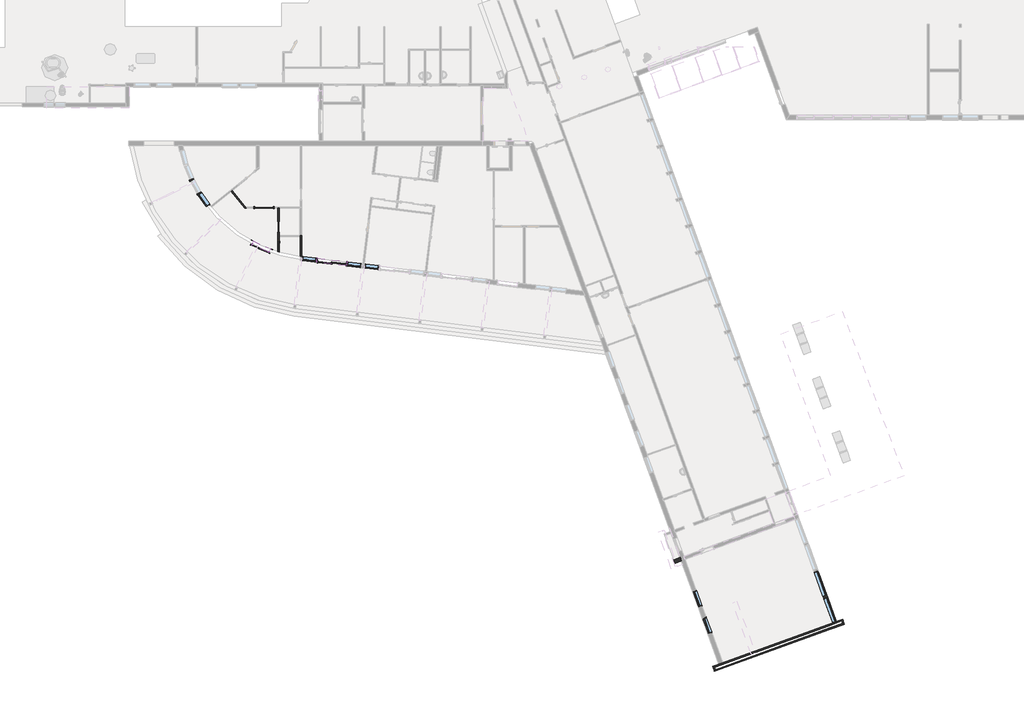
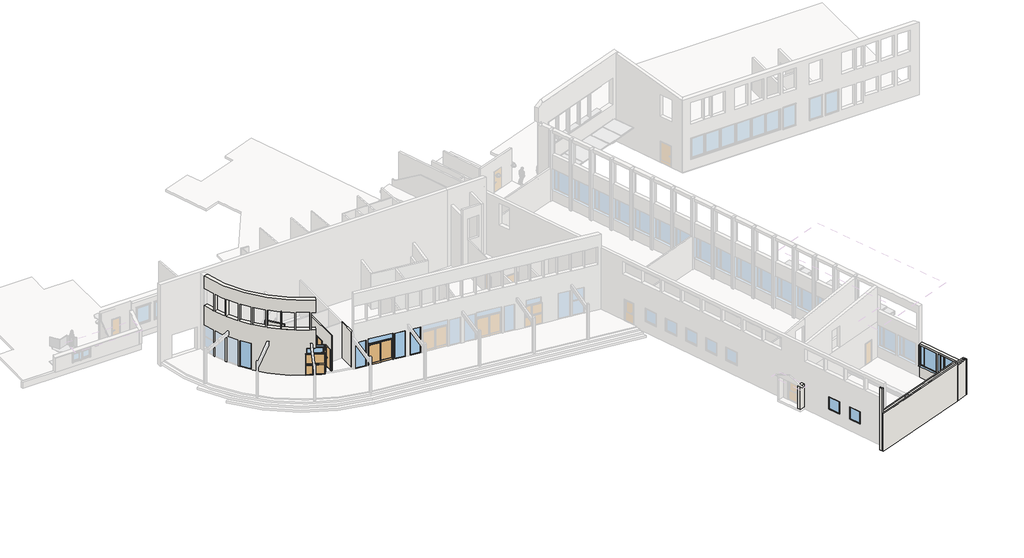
# One storey, part 1 of 13: 13 walls, 10 windows, 5 doors.
"""IFC4 building model written with IfcOpenShell, lengths in millimetres."""

from ifc_helpers import new_model, si_unit, frame, origin, place, context, project, spatial, polyline, circle_curve, outline, extrude, faceted_brep, transform, mapped, element, save
from ifc_brep_helpers import plane_surface, cylinder_surface, revolved_surface, advanced_brep
from components import door_adb3bcbd, door_8x21_7557395c, door_9x21_cc0549d7, id_14x21m_9ddf2398, id_16x22m_5dfcd5f5, window_7219a36e, window_894d641d, window_12c30cfa, window_c16d9a60, window_12x13_gh_d70a3594, window_193x212_1140f226

model = new_model("IFC4")

# Units and contexts
model_context = context("Model", 3, world=origin())
ifc_project = project(units=[si_unit("LENGTHUNIT", "METRE", prefix="MILLI")], contexts=[model_context])

# Site, building, storey
site = spatial("IfcSite", under=ifc_project)
building = spatial("IfcBuilding", under=site)
storey = spatial("IfcBuildingStorey", under=building, Name="1.0 første etg hovedbygg", Elevation=2500.0)

# Doors
placement = place(None, origin())
door_shape = door_adb3bcbd(model_context)
element("IfcDoor", 1, ObjectType="Balkongdor ST : 23x21 ST V1", at=placement, inside=storey, context=model_context, shape_type="MappedRepresentation", body=[
    mapped(door_shape, transform((11680.5593168, -9378.571437, 2500.0), x_axis=(-0.9925461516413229, 0.12186934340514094, 0.0), y_axis=(-0.12186934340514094, -0.9925461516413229, 0.0), z_axis=(0.0, 0.0, 1.0))),
])
door_8x21_shape = door_8x21_7557395c(model_context)
element("IfcDoor", 2, ObjectType="Innerdør Slett (Diplomat) : 8x21", at=placement, inside=storey, context=model_context, shape_type="MappedRepresentation", body=[
    mapped(door_8x21_shape, transform((7633.9847548, -8108.4507924, 2500.0), x_axis=(0.0, 1.0, 0.0), y_axis=(-1.0, 0.0, 0.0), z_axis=(0.0, 0.0, 1.0))),
])
door_9x21_shape = door_9x21_cc0549d7(model_context)
element("IfcDoor", 3, ObjectType="Innerdor Skyvedor Glatt : 9x21", at=placement, inside=storey, context=model_context, shape_type="MappedRepresentation", body=[
    mapped(door_9x21_shape, transform((7633.9847548, -6668.4672025, 2500.0), x_axis=(0.0, -1.0, 0.0), y_axis=(1.0, 0.0, 0.0), z_axis=(0.0, 0.0, 1.0))),
])
id_14x21m_shape = id_14x21m_9ddf2398(model_context)
element("IfcDoor", 4, ObjectType="Innerdør slett tofløya lite sidefelt : ID 14x21M", at=placement, inside=storey, context=model_context, shape_type="MappedRepresentation", body=[
    mapped(id_14x21m_shape, transform((5905.9847548, -5197.7698419, 2500.0), x_axis=(-1.0, 0.0, 0.0), y_axis=(0.0, -1.0, 0.0), z_axis=(0.0, 0.0, 1.0))),
])
id_16x22m_shape = id_16x22m_5dfcd5f5(model_context)
element("IfcDoor", 5, ObjectType="Y-dør tofløya med glas : ID 16x22M", at=placement, inside=storey, context=model_context, shape_type="MappedRepresentation", body=[
    mapped(id_16x22m_shape, transform((5646.8717631, -7927.8232295, 2500.0), x_axis=(-0.9130493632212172, 0.4078490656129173, 0.0), y_axis=(-0.4078490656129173, -0.9130493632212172, 0.0), z_axis=(0.0, 0.0, 1.0))),
])

# Walls
element("IfcWall", 6, ObjectType="Yttervegg tegl halvstein", at=placement, inside=storey, context=model_context, shape_type="Brep", body=[
    faceted_brep([(50552.8894826, -36654.5860471, 2300.0), (50589.827658, -36756.0728501, 2300.0), (50651.0492637, -36924.2778292, 2300.0), (50687.9874392, -37025.7646323, 2300.0), (50687.9874392, -37025.7646323, 5820.0), (50651.0492637, -36924.2778292, 5820.0), (50589.827658, -36756.0728501, 5820.0), (50552.8894826, -36654.5860471, 5820.0), (50654.3762856, -36617.6478716, 2300.0), (50654.3762856, -36617.6478716, 5820.0), (50789.4742422, -36988.8264568, 5820.0), (50789.4742422, -36988.8264568, 2300.0)], [[[0, 1, 2, 3, 4, 5, 6, 7]], [[8, 9, 10, 11]], [[3, 2, 1, 0, 8, 11]], [[4, 3, 11, 10]], [[0, 7, 9, 8]], [[7, 6, 5, 4, 10, 9]]]),
])
element("IfcWall", 7, ObjectType="Yttervegg tegl halvstein", at=placement, inside=storey, context=model_context, shape_type="SweptSolid", body=[
    extrude(outline(polyline([(-108.0, 0.0), (-108.0, -3520.0), (-1150.0, -3520.0), (-1154.0, -3520.0), (-1154.0, 0.0), (-108.0, 0.0)])), frame((50789.4742422, -36988.8264568, 2300.0), z_axis=(-0.3420201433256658, 0.9396926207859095, 0.0), x_axis=(0.9396926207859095, 0.3420201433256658, 0.0)), (0.0, 0.0, 1.0), 108.0),
])
element("IfcWall", 8, ObjectType="Yttervegg tegl halvstein", at=placement, inside=storey, context=model_context, shape_type="Brep", body=[
    faceted_brep([(40940.2657205, -40458.7139904, 8486.2168268), (40940.2657205, -40458.7139904, 2300.0), (40879.0441148, -40290.5090112, 2300.0), (40842.1059394, -40189.0222082, 2300.0), (40842.1059394, -40189.0222082, 6020.0), (40842.1059394, -40189.0222082, 8486.2168268), (40879.0441148, -40290.5090112, 8486.2168268), (40838.7789174, -40495.6521658, 2300.0), (40838.7789174, -40495.6521658, 6020.0), (40838.7789174, -40495.6521658, 8474.8655694), (40740.6191363, -40225.9603837, 8474.8655694), (40740.6191363, -40225.9603837, 2300.0)], [[[0, 1, 2, 3, 4, 5, 6]], [[7, 8, 9, 10, 11]], [[3, 2, 1, 7, 11]], [[0, 6, 5, 10, 9]], [[0, 9, 8, 7, 1]], [[3, 11, 10, 5, 4]]]),
])
element("IfcWall", 9, ObjectType="Yttervegg tegl halvstein", at=placement, inside=storey, context=model_context, shape_type="Brep", body=[
    faceted_brep([(40879.0441148, -40290.5090112, 2300.0), (49625.7030291, -37106.9855172, 2300.0), (49625.7030291, -37106.9855172, 5820.0), (49625.7030291, -37106.9855172, 6020.0), (49509.1811441, -37149.3960149, 6020.0), (40879.0441148, -40290.5090112, 6020.0), (40842.1059394, -40189.0222082, 2300.0), (40842.1059394, -40189.0222082, 6020.0), (49472.2429686, -37047.9092119, 6020.0), (49588.7648536, -37005.4987141, 6020.0), (49588.7648536, -37005.4987141, 5820.0), (49588.7648536, -37005.4987141, 2300.0), (41501.7701591, -39948.9240676, 2300.0), (41210.4654467, -40054.950312, 2300.0)], [[[0, 1, 2, 3, 4, 5]], [[6, 7, 8, 9, 10, 11, 12, 13]], [[1, 0, 6, 13, 12, 11]], [[3, 2, 1, 11, 10, 9]], [[5, 4, 3, 9, 8, 7]], [[0, 5, 7, 6]]]),
])
element("IfcWall", 10, ObjectType="Yttervegg Tre 198+48 Isolert Stående kledning 2", at=placement, inside=storey, context=model_context, shape_type="AdvancedBrep", body=[
    advanced_brep(
    [(74.446719, -928.8908326, 9960.0), (6215.7793262, -8404.2795209, 9960.0), (6355.7666082, -8090.0510039, 9960.0), (410.461041, -855.1499797, 9960.0), (365.9488095, -1967.2560142, 2500.0), (697.7326696, -1874.635608, 2500.0), (721.0205947, -1942.9074526, 2500.0), (401.7968291, -2072.3495514, 2500.0), (1172.0064508, -3043.1351355, 2500.0), (869.5257844, -3207.9517484, 2500.0), (818.9043837, -3100.9997776, 2500.0), (1138.1281493, -2971.5576788, 2500.0), (1400.622352, -4182.649874, 2500.0), (1703.1030184, -4017.833261, 2500.0), (1726.9996162, -4056.4507281, 2500.0), (1444.528806, -4253.6037418, 2500.0), (2079.8245264, -5163.8231371, 2500.0), (2362.2953366, -4966.6701235, 2500.0), (2464.4809882, -5095.5796597, 2500.0), (2527.5793542, -5173.1462326, 2500.0), (5623.8907674, -7729.1781343, 2500.0), (5483.1871367, -8044.1705451, 2500.0), (74.446719, -928.8908326, 8720.0), (365.5729433, -1966.1351007, 8720.0), (365.5729433, -1966.1351007, 7010.0), (74.446719, -928.8908326, 7010.0), (74.446719, -928.8908326, 5100.0), (365.9488095, -1967.2560142, 5100.0), (401.7968291, -2072.3495514, 5100.0), (818.9043837, -3100.9997776, 5100.0), (869.5257844, -3207.9517484, 5100.0), (1400.622352, -4182.649874, 5100.0), (1444.528806, -4253.6037418, 5100.0), (2079.8245264, -5163.8231371, 5100.0), (5483.1871367, -8044.1705451, 4600.0), (5571.7528065, -8091.4095775, 4600.0), (5571.7528065, -8091.4095775, 5170.0), (6215.7793262, -8404.2795209, 5170.0), (6215.7793262, -8404.2795209, 7010.0), (5877.9772771, -8246.7557059, 7010.0), (5877.9772771, -8246.7557059, 8720.0), (6215.7793262, -8404.2795209, 8720.0), (814.1848387, -3090.8719646, 7010.0), (398.1407631, -2061.791148, 7010.0), (398.1407631, -2061.791148, 8720.0), (814.1848387, -3090.8719646, 8720.0), (1386.1263693, -4158.9524404, 7010.0), (857.5363741, -3182.8927, 7010.0), (857.5363741, -3182.8927, 8720.0), (1386.1263693, -4158.9524404, 8720.0), (2072.9523268, -5154.9720857, 7010.0), (1438.6005037, -4244.0946161, 7010.0), (1438.6005037, -4244.0946161, 8720.0), (2072.9523268, -5154.9720857, 8720.0), (2867.2609898, -6068.4967862, 7010.0), (2135.0404613, -5234.2587521, 7010.0), (2135.0404613, -5234.2587521, 8720.0), (2867.2609898, -6068.4967862, 8720.0), (3758.6784144, -6887.4370512, 7010.0), (2937.7767604, -6140.2955154, 7010.0), (2937.7767604, -6140.2955154, 8720.0), (3758.6784144, -6887.4370512, 8720.0), (4736.0159386, -7601.5436802, 7010.0), (3836.7307717, -6950.8623537, 7010.0), (3836.7307717, -6950.8623537, 8720.0), (4736.0159386, -7601.5436802, 8720.0), (5786.9753582, -8201.8640497, 7010.0), (4820.5872107, -7655.7926731, 7010.0), (4820.5872107, -7655.7926731, 8720.0), (5786.9753582, -8201.8640497, 8720.0), (6355.7666082, -8090.0510039, 8720.0), (6355.7666082, -8090.0510039, 5170.0), (6355.7666082, -8090.0510039, 7010.0), (6012.8234813, -7929.7768885, 8720.0), (6012.8234813, -7929.7768885, 7010.0), (5712.3582626, -7776.6266663, 5170.0), (5712.3582626, -7776.6266663, 4600.0), (5623.8907674, -7729.1781343, 4600.0), (2362.2953366, -4966.6701235, 5100.0), (1726.9996162, -4056.4507281, 5100.0), (1703.1030184, -4017.833261, 5100.0), (1172.0064508, -3043.1351355, 5100.0), (1138.1281493, -2971.5576788, 5100.0), (721.0205947, -1942.9074526, 5100.0), (697.7326696, -1874.635608, 5100.0), (410.461041, -855.1499797, 5100.0), (410.461041, -855.1499797, 7010.0), (697.3669311, -1873.5509817, 7010.0), (697.3669311, -1873.5509817, 8720.0), (410.461041, -855.1499797, 8720.0), (1133.5422305, -2961.7598981, 7010.0), (1133.5422305, -2961.7598981, 8720.0), (717.4981549, -1932.6790815, 8720.0), (717.4981549, -1932.6790815, 7010.0), (1689.0295893, -3994.9136987, 7010.0), (1689.0295893, -3994.9136987, 8720.0), (1160.439594, -3018.8539583, 8720.0), (1160.439594, -3018.8539583, 7010.0), (2355.627359, -4958.1119942, 7010.0), (2355.627359, -4958.1119942, 8720.0), (1721.2755359, -4047.2345246, 8720.0), (1721.2755359, -4047.2345246, 7010.0), (3126.1523018, -5841.2648386, 7010.0), (3126.1523018, -5841.2648386, 8720.0), (2393.9317733, -5007.0268044, 8720.0), (2393.9317733, -5007.0268044, 7010.0), (3990.540838, -6632.6844535, 7010.0), (3990.540838, -6632.6844535, 8720.0), (3169.639184, -5885.5429178, 8720.0), (3169.639184, -5885.5429178, 7010.0), (4937.9436084, -7322.4661182, 7010.0), (4937.9436084, -7322.4661182, 8720.0), (4038.6584416, -6671.7847917, 8720.0), (4038.6584416, -6671.7847917, 7010.0), (5956.4391435, -7901.9622409, 7010.0), (5956.4391435, -7901.9622409, 8720.0), (4990.050996, -7355.8908643, 8720.0), (4990.050996, -7355.8908643, 7010.0), (76.9742172, -928.3361543, 8720.0), (76.9182834, -928.3484294, 5100.0), (76.9742172, -928.3361543, 7010.0)],
    [
        (0, 1, circle_curve(frame((10614.7230159, 1470.0, 9960.0), z_axis=(0.0, 0.0, 1.0), x_axis=(1.0, 0.0, 0.0)), 10809.8150605)),
        (1, 2),
        (2, 3, circle_curve(frame((10614.7230159, 1470.0, 9960.0), z_axis=(0.0, 0.0, -1.0), x_axis=(1.0, 0.0, 0.0)), 10465.8150605)),
        (3, 0),
        (4, 5),
        (5, 6, circle_curve(frame((10614.7230159, 1470.0, 2500.0), z_axis=(0.0, 0.0, 1.0), x_axis=(1.0, 0.0, 0.0)), 10465.8150605)),
        (6, 7),
        (7, 4, circle_curve(frame((10614.7230159, 1470.0, 2500.0), z_axis=(0.0, 0.0, -1.0), x_axis=(1.0, 0.0, 0.0)), 10809.8150605)),
        (8, 9),
        (9, 10, circle_curve(frame((10614.7230159, 1470.0, 2500.0), z_axis=(0.0, 0.0, -1.0), x_axis=(1.0, 0.0, 0.0)), 10809.8150605)),
        (10, 11),
        (11, 8, circle_curve(frame((10614.7230159, 1470.0, 2500.0), z_axis=(0.0, 0.0, 1.0), x_axis=(1.0, 0.0, 0.0)), 10465.8150605)),
        (12, 13),
        (13, 14, circle_curve(frame((10614.7230159, 1470.0, 2500.0), z_axis=(0.0, 0.0, 1.0), x_axis=(1.0, 0.0, 0.0)), 10465.8150605)),
        (14, 15),
        (15, 12, circle_curve(frame((10614.7230159, 1470.0, 2500.0), z_axis=(0.0, 0.0, -1.0), x_axis=(1.0, 0.0, 0.0)), 10809.8150605)),
        (16, 17),
        (17, 18, circle_curve(frame((10614.7230159, 1470.0, 2500.0), z_axis=(0.0, 0.0, 1.0), x_axis=(1.0, 0.0, 0.0)), 10465.8150605)),
        (18, 19, circle_curve(frame((10614.7230159, 1470.0, 2500.0), z_axis=(0.0, 0.0, 1.0), x_axis=(1.0, 0.0, 0.0)), 10465.8148932)),
        (19, 20, circle_curve(frame((10614.7230159, 1470.0, 2500.0), z_axis=(0.0, 0.0, 1.0), x_axis=(1.0, 0.0, 0.0)), 10465.815041)),
        (20, 21),
        (21, 16, circle_curve(frame((10614.7230159, 1470.0, 2500.0), z_axis=(0.0, 0.0, -1.0), x_axis=(1.0, 0.0, 0.0)), 10809.8150605)),
        (0, 22),
        (22, 23, circle_curve(frame((10614.7230159, 1470.0, 8720.0), z_axis=(0.0, 0.0, 1.0), x_axis=(1.0, 0.0, 0.0)), 10809.8150605)),
        (23, 24),
        (24, 25, circle_curve(frame((10614.7230159, 1470.0, 7010.0), z_axis=(0.0, 0.0, -1.0), x_axis=(1.0, 0.0, 0.0)), 10809.8150605)),
        (25, 26),
        (26, 27, circle_curve(frame((10614.7230159, 1470.0, 5100.0), z_axis=(0.0, 0.0, 1.0), x_axis=(1.0, 0.0, 0.0)), 10809.8150605)),
        (27, 4),
        (7, 28),
        (28, 29, circle_curve(frame((10614.7230159, 1470.0, 5100.0), z_axis=(0.0, 0.0, 1.0), x_axis=(1.0, 0.0, 0.0)), 10809.8150605)),
        (29, 10),
        (9, 30),
        (30, 31, circle_curve(frame((10614.7230159, 1470.0, 5100.0), z_axis=(0.0, 0.0, 1.0), x_axis=(1.0, 0.0, 0.0)), 10809.8150605)),
        (31, 12),
        (15, 32),
        (32, 33, circle_curve(frame((10614.7230159, 1470.0, 5100.0), z_axis=(0.0, 0.0, 1.0), x_axis=(1.0, 0.0, 0.0)), 10809.8150605)),
        (33, 16),
        (21, 34),
        (34, 35, circle_curve(frame((10614.7230159, 1470.0, 4600.0), z_axis=(0.0, 0.0, 1.0), x_axis=(1.0, 0.0, 0.0)), 10809.8150605)),
        (35, 36),
        (36, 37, circle_curve(frame((10614.7230159, 1470.0, 5170.0), z_axis=(0.0, 0.0, 1.0), x_axis=(1.0, 0.0, 0.0)), 10809.8150605)),
        (37, 38),
        (38, 39, circle_curve(frame((10614.7230159, 1470.0, 7010.0), z_axis=(0.0, 0.0, -1.0), x_axis=(1.0, 0.0, 0.0)), 10809.8150605)),
        (39, 40),
        (40, 41, circle_curve(frame((10614.7230159, 1470.0, 8720.0), z_axis=(0.0, 0.0, 1.0), x_axis=(1.0, 0.0, 0.0)), 10809.8150605)),
        (41, 1),
        (42, 43, circle_curve(frame((10614.7230159, 1470.0, 7010.0), z_axis=(0.0, 0.0, -1.0), x_axis=(1.0, 0.0, 0.0)), 10809.8150605)),
        (43, 44),
        (44, 45, circle_curve(frame((10614.7230159, 1470.0, 8720.0), z_axis=(0.0, 0.0, 1.0), x_axis=(1.0, 0.0, 0.0)), 10809.8150605)),
        (45, 42),
        (46, 47, circle_curve(frame((10614.7230159, 1470.0, 7010.0), z_axis=(0.0, 0.0, -1.0), x_axis=(1.0, 0.0, 0.0)), 10809.8150605)),
        (47, 48),
        (48, 49, circle_curve(frame((10614.7230159, 1470.0, 8720.0), z_axis=(0.0, 0.0, 1.0), x_axis=(1.0, 0.0, 0.0)), 10809.8150605)),
        (49, 46),
        (50, 51, circle_curve(frame((10614.7230159, 1470.0, 7010.0), z_axis=(0.0, 0.0, -1.0), x_axis=(1.0, 0.0, 0.0)), 10809.8150605)),
        (51, 52),
        (52, 53, circle_curve(frame((10614.7230159, 1470.0, 8720.0), z_axis=(0.0, 0.0, 1.0), x_axis=(1.0, 0.0, 0.0)), 10809.8150605)),
        (53, 50),
        (54, 55, circle_curve(frame((10614.7230159, 1470.0, 7010.0), z_axis=(0.0, 0.0, -1.0), x_axis=(1.0, 0.0, 0.0)), 10809.8150605)),
        (55, 56),
        (56, 57, circle_curve(frame((10614.7230159, 1470.0, 8720.0), z_axis=(0.0, 0.0, 1.0), x_axis=(1.0, 0.0, 0.0)), 10809.8150605)),
        (57, 54),
        (58, 59, circle_curve(frame((10614.7230159, 1470.0, 7010.0), z_axis=(0.0, 0.0, -1.0), x_axis=(1.0, 0.0, 0.0)), 10809.8150605)),
        (59, 60),
        (60, 61, circle_curve(frame((10614.7230159, 1470.0, 8720.0), z_axis=(0.0, 0.0, 1.0), x_axis=(1.0, 0.0, 0.0)), 10809.8150605)),
        (61, 58),
        (62, 63, circle_curve(frame((10614.7230159, 1470.0, 7010.0), z_axis=(0.0, 0.0, -1.0), x_axis=(1.0, 0.0, 0.0)), 10809.8150605)),
        (63, 64),
        (64, 65, circle_curve(frame((10614.7230159, 1470.0, 8720.0), z_axis=(0.0, 0.0, 1.0), x_axis=(1.0, 0.0, 0.0)), 10809.8150605)),
        (65, 62),
        (66, 67, circle_curve(frame((10614.7230159, 1470.0, 7010.0), z_axis=(0.0, 0.0, -1.0), x_axis=(1.0, 0.0, 0.0)), 10809.8150605)),
        (67, 68),
        (68, 69, circle_curve(frame((10614.7230159, 1470.0, 8720.0), z_axis=(0.0, 0.0, 1.0), x_axis=(1.0, 0.0, 0.0)), 10809.8150605)),
        (69, 66),
        (41, 70),
        (70, 2),
        (37, 71),
        (71, 72),
        (72, 38),
        (70, 73, circle_curve(frame((10614.7230159, 1470.0, 8720.0), z_axis=(0.0, 0.0, -1.0), x_axis=(1.0, 0.0, 0.0)), 10465.8150605)),
        (73, 74),
        (74, 72, circle_curve(frame((10614.7230159, 1470.0, 7010.0), z_axis=(0.0, 0.0, 1.0), x_axis=(1.0, 0.0, 0.0)), 10465.8150605)),
        (71, 75, circle_curve(frame((10614.7230159, 1470.0, 5170.0), z_axis=(0.0, 0.0, -1.0), x_axis=(1.0, 0.0, 0.0)), 10465.8150605)),
        (75, 76),
        (76, 77, circle_curve(frame((10614.7230159, 1470.0, 4600.0), z_axis=(0.0, 0.0, -1.0), x_axis=(1.0, 0.0, 0.0)), 10465.8150605)),
        (77, 20),
        (17, 78),
        (78, 79, circle_curve(frame((10614.7230159, 1470.0, 5100.0), z_axis=(0.0, 0.0, -1.0), x_axis=(1.0, 0.0, 0.0)), 10465.8150605)),
        (79, 14),
        (13, 80),
        (80, 81, circle_curve(frame((10614.7230159, 1470.0, 5100.0), z_axis=(0.0, 0.0, -1.0), x_axis=(1.0, 0.0, 0.0)), 10465.8150605)),
        (81, 8),
        (11, 82),
        (82, 83, circle_curve(frame((10614.7230159, 1470.0, 5100.0), z_axis=(0.0, 0.0, -1.0), x_axis=(1.0, 0.0, 0.0)), 10465.8150605)),
        (83, 6),
        (5, 84),
        (84, 85, circle_curve(frame((10614.7230159, 1470.0, 5100.0), z_axis=(0.0, 0.0, -1.0), x_axis=(1.0, 0.0, 0.0)), 10465.8150605)),
        (85, 86),
        (86, 87, circle_curve(frame((10614.7230159, 1470.0, 7010.0), z_axis=(0.0, 0.0, 1.0), x_axis=(1.0, 0.0, 0.0)), 10465.8150605)),
        (87, 88),
        (88, 89, circle_curve(frame((10614.7230159, 1470.0, 8720.0), z_axis=(0.0, 0.0, -1.0), x_axis=(1.0, 0.0, 0.0)), 10465.8150605)),
        (89, 3),
        (90, 91),
        (91, 92, circle_curve(frame((10614.7230159, 1470.0, 8720.0), z_axis=(0.0, 0.0, -1.0), x_axis=(1.0, 0.0, 0.0)), 10465.8150605)),
        (92, 93),
        (93, 90, circle_curve(frame((10614.7230159, 1470.0, 7010.0), z_axis=(0.0, 0.0, 1.0), x_axis=(1.0, 0.0, 0.0)), 10465.8150605)),
        (94, 95),
        (95, 96, circle_curve(frame((10614.7230159, 1470.0, 8720.0), z_axis=(0.0, 0.0, -1.0), x_axis=(1.0, 0.0, 0.0)), 10465.8150605)),
        (96, 97),
        (97, 94, circle_curve(frame((10614.7230159, 1470.0, 7010.0), z_axis=(0.0, 0.0, 1.0), x_axis=(1.0, 0.0, 0.0)), 10465.8150605)),
        (98, 99),
        (99, 100, circle_curve(frame((10614.7230159, 1470.0, 8720.0), z_axis=(0.0, 0.0, -1.0), x_axis=(1.0, 0.0, 0.0)), 10465.8150605)),
        (100, 101),
        (101, 98, circle_curve(frame((10614.7230159, 1470.0, 7010.0), z_axis=(0.0, 0.0, 1.0), x_axis=(1.0, 0.0, 0.0)), 10465.8150605)),
        (102, 103),
        (103, 104, circle_curve(frame((10614.7230159, 1470.0, 8720.0), z_axis=(0.0, 0.0, -1.0), x_axis=(1.0, 0.0, 0.0)), 10465.8150605)),
        (104, 105),
        (105, 102, circle_curve(frame((10614.7230159, 1470.0, 7010.0), z_axis=(0.0, 0.0, 1.0), x_axis=(1.0, 0.0, 0.0)), 10465.8150605)),
        (106, 107),
        (107, 108, circle_curve(frame((10614.7230159, 1470.0, 8720.0), z_axis=(0.0, 0.0, -1.0), x_axis=(1.0, 0.0, 0.0)), 10465.8150605)),
        (108, 109),
        (109, 106, circle_curve(frame((10614.7230159, 1470.0, 7010.0), z_axis=(0.0, 0.0, 1.0), x_axis=(1.0, 0.0, 0.0)), 10465.8150605)),
        (110, 111),
        (111, 112, circle_curve(frame((10614.7230159, 1470.0, 8720.0), z_axis=(0.0, 0.0, -1.0), x_axis=(1.0, 0.0, 0.0)), 10465.8150605)),
        (112, 113),
        (113, 110, circle_curve(frame((10614.7230159, 1470.0, 7010.0), z_axis=(0.0, 0.0, 1.0), x_axis=(1.0, 0.0, 0.0)), 10465.8150605)),
        (114, 115),
        (115, 116, circle_curve(frame((10614.7230159, 1470.0, 8720.0), z_axis=(0.0, 0.0, -1.0), x_axis=(1.0, 0.0, 0.0)), 10465.8150605)),
        (116, 117),
        (117, 114, circle_curve(frame((10614.7230159, 1470.0, 7010.0), z_axis=(0.0, 0.0, 1.0), x_axis=(1.0, 0.0, 0.0)), 10465.8150605)),
        (89, 118),
        (118, 22),
        (85, 119),
        (119, 26),
        (25, 120),
        (120, 86),
        (27, 84),
        (81, 30),
        (80, 31),
        (29, 82),
        (28, 83),
        (33, 78),
        (32, 79),
        (77, 34),
        (76, 35),
        (36, 75),
        (87, 24),
        (23, 88),
        (90, 42),
        (45, 91),
        (44, 92),
        (43, 93),
        (94, 46),
        (49, 95),
        (48, 96),
        (47, 97),
        (98, 50),
        (53, 99),
        (52, 100),
        (51, 101),
        (102, 54),
        (57, 103),
        (56, 104),
        (55, 105),
        (106, 58),
        (61, 107),
        (60, 108),
        (59, 109),
        (110, 62),
        (65, 111),
        (64, 112),
        (63, 113),
        (114, 66),
        (69, 115),
        (68, 116),
        (67, 117),
        (40, 73),
        (39, 74),
    ],
    [
        plane_surface(frame((21424.5380764, 1470.0, 9960.0), z_axis=(0.0, 0.0, 1.0), x_axis=(0.0, 1.0, 0.0))),
        plane_surface(frame((21424.5380764, 1470.0, 2500.0), z_axis=(0.0, 0.0, -1.0), x_axis=(0.0, -1.0, 0.0))),
        cylinder_surface(frame((10614.7230159, 1470.0, 2500.0), z_axis=(0.0, 0.0, 1.0), x_axis=(1.0, 0.0, 0.0)), 10809.8150605),
        plane_surface(frame((6215.7793262, -8404.2795209, 9960.0), z_axis=(0.913454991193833, -0.4069397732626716, 0.0), x_axis=(0.0, 0.0, -1.0))),
        revolved_surface(polyline([(21080.5380764, 1470.0, 2500.0), (21080.5380764, 1470.0, 9960.0)]), (10614.7230159, 1470.0, 2500.0), (0.0, 0.0, -1.0)),
        plane_surface(frame((410.461041, -855.1499797, 2500.0), z_axis=(-0.21435629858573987, 0.9767555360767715, 0.0), x_axis=(-0.9767555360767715, -0.21435629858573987, 0.0))),
        plane_surface(frame((-770.1446273, -2284.4065701, 2490.0), z_axis=(-0.268878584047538, 0.9631740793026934, 0.0), x_axis=(0.9631740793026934, 0.268878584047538, 0.0))),
        plane_surface(frame((-770.1446273, -2284.4065701, 5100.0), z_axis=(0.0, 0.0, -1.0), x_axis=(0.9631740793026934, 0.268878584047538, 0.0))),
        plane_surface(frame((2510.2406339, -2313.9539021, 2490.0), z_axis=(0.47846537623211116, -0.8781064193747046, 0.0), x_axis=(-0.8781064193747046, -0.47846537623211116, 0.0))),
        plane_surface(frame((2510.2406339, -2313.9539021, 5100.0), z_axis=(0.0, 0.0, -1.0000000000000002), x_axis=(-0.8781064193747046, -0.47846537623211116, 0.0))),
        plane_surface(frame((3041.3372016, -3288.6520276, 5100.0), z_axis=(-0.4784653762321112, 0.8781064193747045, 0.0), x_axis=(-0.8781064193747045, -0.4784653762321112, 0.0))),
        plane_surface(frame((-274.1808099, -3544.2350782, 2490.0), z_axis=(-0.37577257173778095, 0.9267119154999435, 0.0), x_axis=(0.9267119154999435, 0.37577257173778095, 0.0))),
        plane_surface(frame((-274.1808099, -3544.2350782, 5100.0), z_axis=(0.0, 0.0, -1.0000000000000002), x_axis=(0.9267119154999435, 0.37577257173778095, 0.0))),
        plane_surface(frame((-691.2883645, -2515.5848519, 5100.0), z_axis=(0.3757725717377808, -0.9267119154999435, 0.0), x_axis=(0.9267119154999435, 0.3757725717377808, 0.0))),
        plane_surface(frame((1112.5887074, -5838.9139774, 2490.0), z_axis=(-0.5723384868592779, 0.8200174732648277, 0.0), x_axis=(0.8200174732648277, 0.5723384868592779, 0.0))),
        plane_surface(frame((1112.5887074, -5838.9139774, 5100.0), z_axis=(0.0, 0.0, -1.0), x_axis=(0.8200174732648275, 0.5723384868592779, 0.0))),
        plane_surface(frame((477.292987, -4928.6945821, 5100.0), z_axis=(0.5723384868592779, -0.8200174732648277, 0.0), x_axis=(0.8200174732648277, 0.5723384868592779, 0.0))),
        plane_surface(frame((6245.4527434, -6337.6909048, 2500.0), z_axis=(0.9130493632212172, -0.4078490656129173, 0.0), x_axis=(-0.4078490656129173, -0.9130493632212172, 0.0))),
        plane_surface(frame((6245.4527434, -6337.6909048, 4600.0), z_axis=(0.0, 0.0, -1.0), x_axis=(-0.4078490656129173, -0.9130493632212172, 0.0))),
        plane_surface(frame((6378.2198123, -9743.1729782, 5170.0), z_axis=(0.0, 0.0, -1.0), x_axis=(0.4078379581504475, 0.913054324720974, 0.0))),
        plane_surface(frame((5090.8132144, -9168.1214572, 5170.0), z_axis=(0.913054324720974, -0.4078379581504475, 0.0), x_axis=(0.4078379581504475, 0.913054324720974, 0.0))),
        plane_surface(frame((-770.555173, -2283.1614018, 7010.0), z_axis=(-0.26877324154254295, 0.9632034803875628, 0.0), x_axis=(0.9632034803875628, 0.26877324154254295, 0.0))),
        plane_surface(frame((-770.555173, -2283.1614018, 8720.0), z_axis=(0.0, 0.0, -1.0000000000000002), x_axis=(0.9632034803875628, 0.26877324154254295, 0.0))),
        plane_surface(frame((-1068.8934711, -1214.0055386, 7010.0), z_axis=(0.0, 0.0, 1.0000000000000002), x_axis=(0.9632034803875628, 0.268773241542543, 0.0))),
        plane_surface(frame((1133.5422305, -2961.7598981, 7010.0), z_axis=(-0.3748144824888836, 0.9270998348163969, 0.0), x_axis=(-0.9270998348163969, -0.3748144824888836, 0.0))),
        plane_surface(frame((1133.5422305, -2961.7598981, 8720.0), z_axis=(0.0, 0.0, -1.0000000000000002), x_axis=(-0.9270998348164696, -0.37481448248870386, 0.0))),
        plane_surface(frame((717.4981549, -1932.6790815, 8720.0), z_axis=(0.3748144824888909, -0.9270998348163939, 0.0), x_axis=(-0.9270998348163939, -0.3748144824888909, 0.0))),
        plane_surface(frame((717.4981549, -1932.6790815, 7010.0), z_axis=(0.0, 0.0, 1.0000000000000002), x_axis=(-0.9270998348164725, -0.37481448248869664, 0.0))),
        plane_surface(frame((1689.0295893, -3994.9136987, 7010.0), z_axis=(-0.4762072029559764, 0.8793330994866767, 0.0), x_axis=(-0.8793330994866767, -0.4762072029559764, 0.0))),
        plane_surface(frame((1689.0295893, -3994.9136987, 8720.0), z_axis=(0.0, 0.0, -1.0000000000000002), x_axis=(-0.87933309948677, -0.4762072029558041, 0.0))),
        plane_surface(frame((1160.439594, -3018.8539583, 8720.0), z_axis=(0.47620720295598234, -0.8793330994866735, 0.0), x_axis=(-0.8793330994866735, -0.47620720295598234, 0.0))),
        plane_surface(frame((1160.439594, -3018.8539583, 7010.0), z_axis=(0.0, 0.0, 1.0), x_axis=(-0.8793330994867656, -0.476207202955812, 0.0))),
        plane_surface(frame((2355.627359, -4958.1119942, 7010.0), z_axis=(-0.571488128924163, 0.8206103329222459, 0.0), x_axis=(-0.8206103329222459, -0.571488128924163, 0.0))),
        plane_surface(frame((2355.627359, -4958.1119942, 8720.0), z_axis=(0.0, 0.0, -1.0), x_axis=(-0.8206103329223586, -0.5714881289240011, 0.0))),
        plane_surface(frame((1721.2755359, -4047.2345246, 8720.0), z_axis=(0.5714881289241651, -0.8206103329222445, 0.0), x_axis=(-0.8206103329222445, -0.5714881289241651, 0.0))),
        plane_surface(frame((1721.2755359, -4047.2345246, 7010.0), z_axis=(0.0, 0.0, 1.0000000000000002), x_axis=(-0.8206103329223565, -0.5714881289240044, 0.0))),
        plane_surface(frame((3126.1523018, -5841.2648386, 7010.0), z_axis=(-0.6596581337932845, 0.7515657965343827, 0.0), x_axis=(-0.7515657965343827, -0.6596581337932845, 0.0))),
        plane_surface(frame((3126.1523018, -5841.2648386, 8720.0), z_axis=(0.0, 0.0, -1.0), x_axis=(-0.7515657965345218, -0.6596581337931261, 0.0))),
        plane_surface(frame((2393.9317733, -5007.0268044, 8720.0), z_axis=(0.6596581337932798, -0.751565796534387, 0.0), x_axis=(-0.751565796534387, -0.6596581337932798, 0.0))),
        plane_surface(frame((2393.9317733, -5007.0268044, 7010.0), z_axis=(0.0, 0.0, 1.0), x_axis=(-0.7515657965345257, -0.6596581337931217, 0.0))),
        plane_surface(frame((3990.540838, -6632.6844535, 7010.0), z_axis=(-0.7395510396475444, 0.6731004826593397, 0.0), x_axis=(-0.6731004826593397, -0.7395510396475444, 0.0))),
        plane_surface(frame((3990.540838, -6632.6844535, 8720.0), z_axis=(0.0, 0.0, -1.0000000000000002), x_axis=(-0.6731004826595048, -0.7395510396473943, 0.0))),
        plane_surface(frame((3169.639184, -5885.5429178, 8720.0), z_axis=(0.7395510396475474, -0.6731004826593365, 0.0), x_axis=(-0.6731004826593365, -0.7395510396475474, 0.0))),
        plane_surface(frame((3169.639184, -5885.5429178, 7010.0), z_axis=(0.0, 0.0, 1.0), x_axis=(-0.6731004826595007, -0.739551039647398, 0.0))),
        plane_surface(frame((4937.9436084, -7322.4661182, 7010.0), z_axis=(-0.8101668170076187, 0.5861993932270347, 0.0), x_axis=(-0.5861993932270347, -0.8101668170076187, 0.0))),
        plane_surface(frame((4937.9436084, -7322.4661182, 8720.0), z_axis=(0.0, 0.0, -1.0), x_axis=(-0.5861993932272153, -0.810166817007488, 0.0))),
        plane_surface(frame((4038.6584416, -6671.7847917, 8720.0), z_axis=(0.8101668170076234, -0.5861993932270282, 0.0), x_axis=(-0.5861993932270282, -0.8101668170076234, 0.0))),
        plane_surface(frame((4038.6584416, -6671.7847917, 7010.0), z_axis=(0.0, 0.0, 1.0), x_axis=(-0.5861993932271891, -0.8101668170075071, 0.0))),
        plane_surface(frame((5956.4391435, -7901.9622409, 7010.0), z_axis=(-0.8706199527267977, 0.4919561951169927, 0.0), x_axis=(-0.4919561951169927, -0.8706199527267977, 0.0))),
        plane_surface(frame((5956.4391435, -7901.9622409, 8720.0), z_axis=(0.0, 0.0, -1.0), x_axis=(-0.4919561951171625, -0.8706199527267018, 0.0))),
        plane_surface(frame((4990.050996, -7355.8908643, 8720.0), z_axis=(0.8706199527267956, -0.49195619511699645, 0.0), x_axis=(-0.49195619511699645, -0.8706199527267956, 0.0))),
        plane_surface(frame((4990.050996, -7355.8908643, 7010.0), z_axis=(0.0, 0.0, 1.0000000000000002), x_axis=(-0.49195619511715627, -0.8706199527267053, 0.0))),
        plane_surface(frame((6437.6534734, -9766.6752193, 8720.0), z_axis=(0.0, 0.0, -1.0000000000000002), x_axis=(0.39146077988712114, 0.9201947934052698, 0.0))),
        plane_surface(frame((5416.2372528, -9332.1537537, 8720.0), z_axis=(0.9201947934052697, -0.3914607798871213, 0.0), x_axis=(0.3914607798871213, 0.9201947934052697, 0.0))),
        plane_surface(frame((5416.2372528, -9332.1537537, 7010.0), z_axis=(0.0, 0.0, 1.0000000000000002), x_axis=(0.3914607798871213, 0.9201947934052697, 0.0))),
    ],
    [
        (0, [[1, 2, 3, 4]]),
        (1, [[5, 6, 7, 8]]),
        (1, [[9, 10, 11, 12]]),
        (1, [[13, 14, 15, 16]]),
        (1, [[17, 18, 19, 20, 21, 22]]),
        (2, [[-1, 23, 24, 25, 26, 27, 28, 29, -8, 30, 31, 32, -10, 33, 34, 35, -16, 36, 37, 38, -22, 39, 40, 41, 42, 43, 44, 45, 46, 47], [48, 49, 50, 51], [52, 53, 54, 55], [56, 57, 58, 59], [60, 61, 62, 63], [64, 65, 66, 67], [68, 69, 70, 71], [72, 73, 74, 75]]),
        (3, [[-2, -47, 76, 77]]),
        (3, [[78, 79, 80, -43]]),
        (4, [[-3, -77, 81, 82, 83, -79, 84, 85, 86, 87, -20, -19, -18, 88, 89, 90, -14, 91, 92, 93, -12, 94, 95, 96, -6, 97, 98, 99, 100, 101, 102, 103], [104, 105, 106, 107], [108, 109, 110, 111], [112, 113, 114, 115], [116, 117, 118, 119], [120, 121, 122, 123], [124, 125, 126, 127], [128, 129, 130, 131]]),
        (5, [[-4, -103, 132, 133, -23]]),
        (5, [[134, 135, -27, 136, 137, -99]]),
        (6, [[138, -97, -5, -29]]),
        (7, [[-138, -28, -135, -134, -98]]),
        (8, [[139, -33, -9, -93]]),
        (9, [[-139, -92, 140, -34]]),
        (10, [[-140, -91, -13, -35]]),
        (11, [[141, -94, -11, -32]]),
        (12, [[-141, -31, 142, -95]]),
        (13, [[-142, -30, -7, -96]]),
        (14, [[143, -88, -17, -38]]),
        (15, [[-143, -37, 144, -89]]),
        (16, [[-144, -36, -15, -90]]),
        (17, [[145, -39, -21, -87]]),
        (18, [[-145, -86, 146, -40]]),
        (19, [[147, -84, -78, -42]]),
        (20, [[-147, -41, -146, -85]]),
        (21, [[148, -25, 149, -101]]),
        (22, [[-149, -24, -133, -132, -102]]),
        (23, [[-148, -100, -137, -136, -26]]),
        (24, [[-104, 150, -51, 151]]),
        (25, [[-105, -151, -50, 152]]),
        (26, [[-106, -152, -49, 153]]),
        (27, [[-107, -153, -48, -150]]),
        (28, [[-108, 154, -55, 155]]),
        (29, [[-109, -155, -54, 156]]),
        (30, [[-110, -156, -53, 157]]),
        (31, [[-111, -157, -52, -154]]),
        (32, [[-112, 158, -59, 159]]),
        (33, [[-113, -159, -58, 160]]),
        (34, [[-114, -160, -57, 161]]),
        (35, [[-115, -161, -56, -158]]),
        (36, [[-116, 162, -63, 163]]),
        (37, [[-117, -163, -62, 164]]),
        (38, [[-118, -164, -61, 165]]),
        (39, [[-119, -165, -60, -162]]),
        (40, [[-120, 166, -67, 167]]),
        (41, [[-121, -167, -66, 168]]),
        (42, [[-122, -168, -65, 169]]),
        (43, [[-123, -169, -64, -166]]),
        (44, [[-124, 170, -71, 171]]),
        (45, [[-125, -171, -70, 172]]),
        (46, [[-126, -172, -69, 173]]),
        (47, [[-127, -173, -68, -170]]),
        (48, [[-128, 174, -75, 175]]),
        (49, [[-129, -175, -74, 176]]),
        (50, [[-130, -176, -73, 177]]),
        (51, [[-131, -177, -72, -174]]),
        (52, [[178, -81, -76, -46]]),
        (53, [[-178, -45, 179, -82]]),
        (54, [[-179, -44, -80, -83]]),
    ],
),
])
element("IfcWall", 11, ObjectType="Yttervegg Mur 250 Lettklinker pusset", at=placement, inside=storey, context=model_context, shape_type="SweptSolid", body=[
    extrude(outline(polyline([(38339.2063435, -32166.2307605), (37869.3600331, -32337.2408322), (37777.0145944, -32083.5238246), (38246.8609048, -31912.5137529), (38339.2063435, -32166.2307605)])), frame((0.0, 0.0, 2500.0), z_axis=(0.0, 0.0, 1.0), x_axis=(1.0, 0.0, 0.0)), (0.0, 0.0, 1.0), 2300.0),
])
element("IfcWall", 12, ObjectType="Yttervegg 150 betong + 150 leca innv puss", at=placement, inside=storey, context=model_context, shape_type="SweptSolid", body=[
    extrude(outline(polyline([(49669.0000001, 0.0), (53615.0000001, 0.0), (53615.0000001, -3520.0), (49669.0000001, -3520.0), (49669.0000001, -3374.0), (51452.0, -3374.0), (51452.0, -1250.0), (49669.0000001, -1250.0), (49669.0000001, 0.0)]), holes=[polyline([(51658.0, -1250.0), (51658.0, -3374.0), (53592.0, -3374.0), (53592.0, -1250.0), (51658.0, -1250.0)])]), frame((31555.8152784, 13486.9356758, 2300.0), z_axis=(0.9396926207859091, 0.34202014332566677, 0.0), x_axis=(0.34202014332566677, -0.9396926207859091, 0.0)), (0.0, 0.0, 1.0), 310.0),
])
element("IfcWall", 13, ObjectType="Yttervegg tegl halvstein", at=placement, inside=storey, context=model_context, shape_type="Brep", body=[
    faceted_brep([(49668.1307823, -37282.0308991, 2300.0), (40940.2657205, -40458.7139904, 2300.0), (40838.7789174, -40495.6521658, 2300.0), (40838.7789174, -40495.6521658, 6020.0), (49668.1307823, -37282.0308991, 6020.0), (49668.1307823, -37282.0308991, 5820.0), (49705.0689578, -37383.5177022, 2300.0), (49705.0689578, -37383.5177022, 5820.0), (49705.0689578, -37383.5177022, 6020.0), (40875.7170929, -40597.1389689, 6020.0), (40875.7170929, -40597.1389689, 2300.0)], [[[0, 1, 2, 3, 4, 5]], [[6, 7, 8, 9, 10]], [[2, 1, 0, 6, 10]], [[4, 3, 9, 8]], [[0, 5, 4, 8, 7, 6]], [[3, 2, 10, 9]]]),
])
element("IfcWall", 14, ObjectType="Yttervegg tegl halvstein", at=placement, inside=storey, context=model_context, shape_type="Brep", body=[
    faceted_brep([(49625.7030291, -37106.9855172, 2300.0), (50589.827658, -36756.0728501, 2300.0), (50589.827658, -36756.0728501, 5820.0), (49625.7030291, -37106.9855172, 5820.0), (50552.8894826, -36654.5860471, 2300.0), (50184.5299752, -36788.6579432, 2300.0), (49893.2252628, -36894.6841877, 2300.0), (49588.7648536, -37005.4987141, 2300.0), (49588.7648536, -37005.4987141, 5820.0), (49893.2252628, -36894.6841877, 5820.0), (50184.5299752, -36788.6579432, 5820.0), (50552.8894826, -36654.5860471, 5820.0)], [[[0, 1, 2, 3]], [[4, 5, 6, 7, 8, 9, 10, 11]], [[1, 0, 7, 6, 5, 4]], [[0, 3, 8, 7]], [[2, 1, 4, 11]], [[3, 2, 11, 10, 9, 8]]]),
])
element("IfcWall", 15, ObjectType="Yttervegg tegl halvstein", at=placement, inside=storey, context=model_context, shape_type="Brep", body=[
    faceted_brep([(40940.2657205, -40458.7139904, 8486.2168268), (40940.2657205, -40458.7139904, 2300.0), (40879.0441148, -40290.5090112, 2300.0), (40879.0441148, -40290.5090112, 8486.2168268), (40838.7789174, -40495.6521658, 2300.0), (40838.7789174, -40495.6521658, 6020.0), (40838.7789174, -40495.6521658, 8474.8655694), (40777.5573118, -40327.4471867, 8474.8655694), (40777.5573118, -40327.4471867, 2300.0)], [[[0, 1, 2, 3]], [[4, 5, 6, 7, 8]], [[2, 1, 4, 8]], [[0, 3, 7, 6]], [[2, 8, 7, 3]], [[0, 6, 5, 4, 1]]]),
])
element("IfcWall", 16, ObjectType="Generic - 100mm - Filled", at=placement, inside=storey, context=model_context, shape_type="Brep", body=[
    faceted_brep([(4002.4416064, -3973.3758317, 2500.0), (5039.128494, -5247.7698419, 2500.0), (5039.128494, -5247.7698419, 6020.0), (4002.4416064, -3973.3758317, 6020.0), (4080.0159996, -3910.2710496, 2500.0), (4080.0159996, -3910.2710496, 6020.0), (5086.6895724, -5147.7698419, 6020.0), (5168.0370112, -5247.7698419, 6020.0), (5168.0370112, -5247.7698419, 2500.0), (5086.6895724, -5147.7698419, 2500.0)], [[[0, 1, 2, 3]], [[4, 5, 6, 7, 8, 9]], [[1, 0, 4, 9, 8]], [[3, 2, 7, 6, 5]], [[2, 1, 8, 7]], [[0, 3, 5, 4]]]),
])
element("IfcWall", 17, ObjectType="Generic - 100mm - Filled", at=placement, inside=storey, context=model_context, shape_type="AdvancedBrep", body=[
    advanced_brep(
    [(9283.9847548, -7318.4672025, 2500.0), (9283.9847548, -7418.4672025, 2500.0), (9283.9847548, -8910.8680061, 2500.0), (9283.9847548, -8910.8680061, 6020.0), (9283.9847548, -7418.4672025, 6020.0), (9283.9847548, -7318.4672025, 6020.0), (9383.9847548, -7318.4672025, 2500.0), (9383.9847548, -7318.4672025, 6020.0), (9383.9847548, -8923.2958479, 6020.0), (9383.9847548, -8923.2958479, 2500.0), (9339.2610063, -8917.8044621, 2500.0), (9339.2610063, -8917.8044621, 6020.0), (9354.9462819, -8919.7303718, 6020.0)],
    [
        (0, 1),
        (1, 2),
        (2, 3),
        (3, 4),
        (4, 5),
        (5, 0),
        (6, 7),
        (7, 8),
        (8, 9),
        (9, 6),
        (0, 6),
        (9, 10),
        (10, 2, circle_curve(frame((10614.7230159, 1470.0, 2500.0), z_axis=(0.0, 0.0, -1.0), x_axis=(0.9134549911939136, -0.4069397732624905, 0.0)), 10465.8150605)),
        (3, 11, circle_curve(frame((10614.7230159, 1470.0, 6020.0), z_axis=(0.0, 0.0, 1.0), x_axis=(0.9134549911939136, -0.4069397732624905, 0.0)), 10465.8150605)),
        (11, 12),
        (12, 8),
        (7, 5),
        (10, 11),
    ],
    [
        plane_surface(frame((9283.9847548, -480.0, 2500.0), z_axis=(-1.0, 0.0, 0.0), x_axis=(0.0, -1.0, 0.0))),
        plane_surface(frame((9383.9847548, -480.0, 2500.0), z_axis=(1.0, 0.0, 0.0), x_axis=(0.0, 1.0, 0.0))),
        plane_surface(frame((9283.9847548, -7368.4672025, 2500.0), z_axis=(0.0, 0.0, -1.0), x_axis=(1.0, 0.0, 0.0))),
        plane_surface(frame((9283.9847548, -9090.4483098, 6020.0), z_axis=(0.0, 0.0, 1.0), x_axis=(1.0, 0.0, 0.0))),
        plane_surface(frame((9283.9847548, -7318.4672025, 2500.0), z_axis=(0.0, 1.0, 0.0), x_axis=(-1.0, 0.0, 0.0))),
        cylinder_surface(frame((10614.7230159, 1470.0, 2324.0), z_axis=(0.0, 0.0, 1.0), x_axis=(0.9134549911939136, -0.4069397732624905, 0.0)), 10465.8150605),
        plane_surface(frame((20218.5849312, -10253.6174731, 2324.0), z_axis=(-0.12186934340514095, -0.992546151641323, 0.0), x_axis=(0.992546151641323, -0.12186934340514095, 0.0))),
    ],
    [
        (0, [[1, 2, 3, 4, 5, 6]]),
        (1, [[7, 8, 9, 10]]),
        (2, [[-2, -1, 11, -10, 12, 13]]),
        (3, [[-5, -4, 14, 15, 16, -8, 17]]),
        (4, [[-6, -17, -7, -11]]),
        (5, [[-3, -13, 18, -14]]),
        (6, [[-12, -9, -16, -15, -18]]),
    ],
),
])
element("IfcWall", 18, ObjectType="Generic - 100mm - Filled", at=placement, inside=storey, context=model_context, shape_type="AdvancedBrep", body=[
    advanced_brep(
    [(7583.9847548, -8460.0711594, 4615.0), (7583.9847548, -8460.0711594, 2500.0), (7583.9847548, -8547.3804197, 2500.0), (7583.9847548, -8547.3804197, 6020.0), (7583.9847548, -5247.7698419, 6020.0), (7583.9847548, -5247.7698419, 2500.0), (7583.9847548, -6271.4672025, 2500.0), (7583.9847548, -6271.4672025, 4630.0), (7583.9847548, -7118.4672025, 4630.0), (7583.9847548, -7118.4672025, 2500.0), (7583.9847548, -7650.0711594, 2500.0), (7583.9847548, -7650.0711594, 4615.0), (7683.9847548, -8577.0920233, 2500.0), (7683.9847548, -8460.0711594, 2500.0), (7683.9847548, -8460.0711594, 4615.0), (7683.9847548, -7650.0711594, 4615.0), (7683.9847548, -7650.0711594, 2500.0), (7683.9847548, -7418.4672025, 2500.0), (7683.9847548, -7318.4672025, 2500.0), (7683.9847548, -7118.4672025, 2500.0), (7683.9847548, -7118.4672025, 4630.0), (7683.9847548, -6271.4672025, 4630.0), (7683.9847548, -6271.4672025, 2500.0), (7683.9847548, -5247.7698419, 2500.0), (7683.9847548, -5247.7698419, 6020.0), (7683.9847548, -7318.4672025, 6020.0), (7683.9847548, -7418.4672025, 6020.0), (7683.9847548, -8577.0920233, 6020.0), (7658.9847548, -6271.4672025, 2500.0), (7658.9847548, -5418.4672025, 2500.0), (7608.9847548, -5418.4672025, 2500.0), (7608.9847548, -6271.4672025, 2500.0), (7658.9847548, -5418.4672025, 4630.0), (7658.9847548, -6271.4672025, 4630.0), (7608.9847548, -6271.4672025, 4630.0), (7608.9847548, -5418.4672025, 4630.0)],
    [
        (0, 1),
        (1, 2),
        (2, 3),
        (3, 4),
        (4, 5),
        (5, 6),
        (6, 7),
        (7, 8),
        (8, 9),
        (9, 10),
        (10, 11),
        (11, 0),
        (12, 13),
        (13, 14),
        (14, 15),
        (15, 16),
        (16, 17),
        (17, 18),
        (18, 19),
        (19, 20),
        (20, 21),
        (21, 22),
        (22, 23),
        (23, 24),
        (24, 25),
        (25, 26),
        (26, 27),
        (27, 12),
        (5, 23),
        (22, 28),
        (28, 29),
        (29, 30),
        (30, 31),
        (31, 6),
        (9, 19),
        (16, 10),
        (1, 13),
        (12, 2, circle_curve(frame((10614.7230159, 1470.0, 2500.0), z_axis=(0.0, 0.0, -1.0), x_axis=(1.0, 0.0, 0.0)), 10465.8150605)),
        (3, 27, circle_curve(frame((10614.7230159, 1470.0, 6020.0), z_axis=(0.0, 0.0, 1.0), x_axis=(1.0, 0.0, 0.0)), 10465.8150605)),
        (24, 4),
        (32, 33),
        (33, 21),
        (20, 8),
        (7, 34),
        (34, 35),
        (35, 32),
        (32, 29),
        (28, 33),
        (31, 34),
        (30, 35),
        (0, 14),
        (11, 15),
    ],
    [
        plane_surface(frame((7583.9847548, -5247.7698419, 2500.0), z_axis=(-1.0, 0.0, 0.0), x_axis=(0.0, -1.0, 0.0))),
        plane_surface(frame((7683.9847548, -5247.7698419, 2500.0), z_axis=(1.0, 0.0, 0.0), x_axis=(0.0, 1.0, 0.0))),
        plane_surface(frame((7583.9847548, -5197.7698419, 2500.0), z_axis=(0.0, 0.0, -1.0), x_axis=(1.0, 0.0, 0.0))),
        plane_surface(frame((7583.9847548, -8741.6751163, 6020.0), z_axis=(0.0, 0.0, 1.0), x_axis=(1.0, 0.0, 0.0))),
        cylinder_surface(frame((10614.7230159, 1470.0, 2500.0), z_axis=(0.0, 0.0, -1.0), x_axis=(1.0, 0.0, 0.0)), 10465.8150605),
        plane_surface(frame((5062.0822277, -5247.7698419, 2500.0), z_axis=(0.0, 1.0, 0.0), x_axis=(1.0, 0.0, 0.0))),
        plane_surface(frame((7658.9847548, -6271.4672025, 4630.0), z_axis=(0.0, 0.0, -1.0), x_axis=(0.0, -1.0, 0.0))),
        plane_surface(frame((7658.9847548, -5418.4672025, 4630.0), z_axis=(-1.0, 0.0, 0.0), x_axis=(0.0, 0.0, -1.0))),
        plane_surface(frame((7658.9847548, -6271.4672025, 4630.0), z_axis=(0.0, -1.0, 0.0), x_axis=(0.0, 0.0, -1.0))),
        plane_surface(frame((7683.9847548, -7118.4672025, 4630.0), z_axis=(0.0, 1.0, 0.0), x_axis=(0.0, 0.0, -1.0))),
        plane_surface(frame((7583.9847548, -6271.4672025, 4630.0), z_axis=(0.0, -1.0, 0.0), x_axis=(0.0, 0.0, -1.0))),
        plane_surface(frame((7608.9847548, -6271.4672025, 4630.0), z_axis=(1.0, 0.0, 0.0), x_axis=(0.0, 0.0, -1.0))),
        plane_surface(frame((7608.9847548, -5418.4672025, 4630.0), z_axis=(0.0, -1.0, 0.0), x_axis=(0.0, 0.0, -1.0))),
        plane_surface(frame((7683.9847548, -8460.0711594, 2500.0), z_axis=(0.0, 1.0, 0.0), x_axis=(-1.0, 0.0, 0.0))),
        plane_surface(frame((7683.9847548, -8460.0711594, 4615.0), z_axis=(0.0, 0.0, -1.0), x_axis=(-1.0, 0.0, 0.0))),
        plane_surface(frame((7683.9847548, -7650.0711594, 4615.0), z_axis=(0.0, -1.0, 0.0), x_axis=(-1.0, 0.0, 0.0))),
    ],
    [
        (0, [[1, 2, 3, 4, 5, 6, 7, 8, 9, 10, 11, 12]]),
        (1, [[13, 14, 15, 16, 17, 18, 19, 20, 21, 22, 23, 24, 25, 26, 27, 28]]),
        (2, [[29, -23, 30, 31, 32, 33, 34, -6]]),
        (2, [[-10, 35, -19, -18, -17, 36]]),
        (2, [[-2, 37, -13, 38]]),
        (3, [[-4, 39, -27, -26, -25, 40]]),
        (4, [[-3, -38, -28, -39]]),
        (5, [[-5, -40, -24, -29]]),
        (6, [[41, 42, -21, 43, -8, 44, 45, 46]]),
        (7, [[-41, 47, -31, 48]]),
        (8, [[-42, -48, -30, -22]]),
        (9, [[-43, -20, -35, -9]]),
        (10, [[-44, -7, -34, 49]]),
        (11, [[-45, -49, -33, 50]]),
        (12, [[-46, -50, -32, -47]]),
        (13, [[-14, -37, -1, 51]]),
        (14, [[-15, -51, -12, 52]]),
        (15, [[-16, -52, -11, -36]]),
    ],
),
])

# Windows
window_shape = window_7219a36e(model_context)
element("IfcWindow", 19, ObjectType="Vindu FK : 11X26 FK V2", at=placement, inside=storey, context=model_context, shape_type="MappedRepresentation", body=[
    mapped(window_shape, transform((1903.604471, -4610.0026455, 1610.0), x_axis=(-0.5723384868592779, 0.8200174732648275, 0.0), y_axis=(-0.8200174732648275, -0.5723384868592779, 0.0), z_axis=(0.0, 0.0, 1.0))),
])
window_2_shape = window_894d641d(model_context)
element("IfcWindow", 20, ObjectType="Vindu FK : 10X26 FK V4", at=placement, inside=storey, context=model_context, shape_type="MappedRepresentation", body=[
    mapped(window_2_shape, transform((9953.5290129, -9166.5187795, 1610.0), x_axis=(-0.9925461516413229, 0.12186934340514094, 0.0), y_axis=(-0.12186934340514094, -0.9925461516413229, 0.0), z_axis=(0.0, 0.0, 1.0))),
])
element("IfcWindow", 21, ObjectType="Vindu FK : 10X26 FK V4", at=placement, inside=storey, context=model_context, shape_type="MappedRepresentation", body=[
    mapped(window_2_shape, transform((13387.7386976, -9588.1867077, 1610.0), x_axis=(-0.9925461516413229, 0.12186934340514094, 0.0), y_axis=(-0.12186934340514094, -0.9925461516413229, 0.0), z_axis=(0.0, 0.0, 1.0))),
])
element("IfcWindow", 22, ObjectType="Vindu FK : 10X26 FK V4", at=placement, inside=storey, context=model_context, shape_type="MappedRepresentation", body=[
    mapped(window_2_shape, transform((14737.6014638, -9753.9290147, 1610.0), x_axis=(-0.9925461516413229, 0.12186934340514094, 0.0), y_axis=(-0.12186934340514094, -0.9925461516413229, 0.0), z_axis=(0.0, 0.0, 1.0))),
])
window_3_shape = window_12c30cfa(model_context)
element("IfcWindow", 23, ObjectType="Vindu FK : 23X6 FK V1", at=placement, inside=storey, context=model_context, shape_type="MappedRepresentation", body=[
    mapped(window_3_shape, transform((11680.1170738, -9378.5171364, 3710.0), x_axis=(-0.9925461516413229, 0.12186934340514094, 0.0), y_axis=(-0.12186934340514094, -0.9925461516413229, 0.0), z_axis=(0.0, 0.0, 1.0))),
])
window_4_shape = window_c16d9a60(model_context)
element("IfcWindow", 24, ObjectType="Vindu FK : 14X6 FK d1", at=placement, inside=storey, context=model_context, shape_type="MappedRepresentation", body=[
    mapped(window_4_shape, transform((6285.9134328, -8221.1977707, 3710.0), x_axis=(-0.913054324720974, 0.40783795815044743, 0.0), y_axis=(-0.40783795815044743, -0.913054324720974, 0.0), z_axis=(0.0, 0.0, 1.0))),
])
window_12x13_gh_shape = window_12x13_gh_d70a3594(model_context)
element("IfcWindow", 25, ObjectType="Vindu GHx2 : 12x13 GH", at=placement, inside=storey, context=model_context, shape_type="MappedRepresentation", body=[
    mapped(window_12x13_gh_shape, transform((40302.5247514, -37107.2140715, 2500.0), x_axis=(-0.34202014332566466, 0.9396926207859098, 0.0), y_axis=(-0.9396926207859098, -0.34202014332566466, 0.0), z_axis=(0.0, 0.0, 1.0))),
])
element("IfcWindow", 26, ObjectType="Vindu GHx2 : 12x13 GH", at=placement, inside=storey, context=model_context, shape_type="MappedRepresentation", body=[
    mapped(window_12x13_gh_shape, transform((39558.8019497, -35063.8524676, 2500.0), x_axis=(-0.34202014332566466, 0.9396926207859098, 0.0), y_axis=(-0.9396926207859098, -0.34202014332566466, 0.0), z_axis=(0.0, 0.0, 1.0))),
])
window_193x212_shape = window_193x212_1140f226(model_context)
element("IfcWindow", 27, ObjectType="Vindu 2 felt med åpning side : 193x212", at=placement, inside=storey, context=model_context, shape_type="MappedRepresentation", body=[
    mapped(window_193x212_shape, transform((49733.5725917, -35944.3763088, 2750.0), x_axis=(0.34202014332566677, -0.9396926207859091, 0.0), y_axis=(0.9396926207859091, 0.34202014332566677, 0.0), z_axis=(0.0, 0.0, 1.0))),
])
element("IfcWindow", 28, ObjectType="Vindu 2 felt med åpning side : 193x212", at=placement, inside=storey, context=model_context, shape_type="MappedRepresentation", body=[
    mapped(window_193x212_shape, transform((49001.6494849, -33933.4341003, 2750.0), x_axis=(0.34202014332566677, -0.9396926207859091, 0.0), y_axis=(0.9396926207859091, 0.34202014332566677, 0.0), z_axis=(0.0, 0.0, 1.0))),
])

save(model, "model.ifc")
